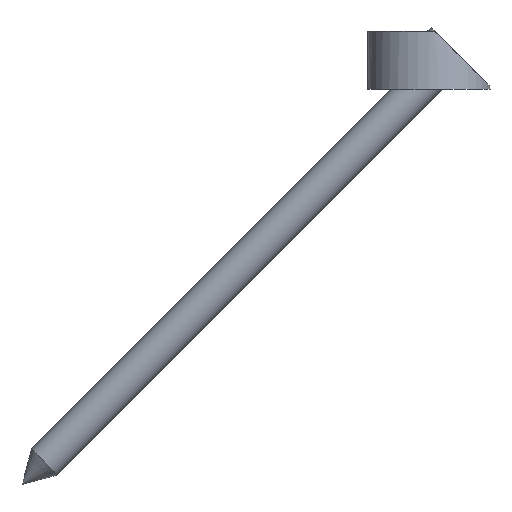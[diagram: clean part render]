
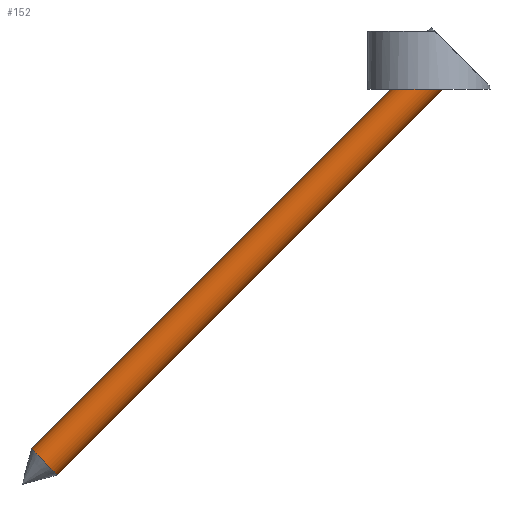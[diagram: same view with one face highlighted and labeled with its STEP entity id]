
A CAD part, left-side view. The second image highlights one B-rep face of the part: STEP entity #152.
In plain terms, the highlighted cylindrical face has radius 3 mm (diameter 6 mm), a full revolution.
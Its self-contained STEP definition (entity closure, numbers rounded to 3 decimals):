
#36=CYLINDRICAL_SURFACE('',#198,3.);
#44=CIRCLE('',#197,3.);
#45=CIRCLE('',#199,3.);
#68=ORIENTED_EDGE('',*,*,#85,.F.);
#69=ORIENTED_EDGE('',*,*,#84,.T.);
#84=EDGE_CURVE('',#95,#95,#44,.T.);
#85=EDGE_CURVE('',#97,#97,#45,.T.);
#95=VERTEX_POINT('',#288);
#97=VERTEX_POINT('',#292);
#115=EDGE_LOOP('',(#68));
#116=EDGE_LOOP('',(#69));
#134=FACE_BOUND('',#115,.T.);
#135=FACE_BOUND('',#116,.T.);
#152=ADVANCED_FACE('',(#134,#135),#36,.T.);
#197=AXIS2_PLACEMENT_3D('',#287,#238,#239);
#198=AXIS2_PLACEMENT_3D('',#290,#240,#241);
#199=AXIS2_PLACEMENT_3D('',#291,#242,#243);
#238=DIRECTION('',(0.,0.,1.));
#239=DIRECTION('',(0.,-1.,0.));
#240=DIRECTION('',(0.,0.,1.));
#241=DIRECTION('',(0.,-1.,0.));
#242=DIRECTION('',(0.,0.,1.));
#243=DIRECTION('',(0.,-1.,0.));
#287=CARTESIAN_POINT('',(0.,0.,-94.804));
#288=CARTESIAN_POINT('',(0.,-3.,-94.804));
#290=CARTESIAN_POINT('',(0.,0.,0.));
#291=CARTESIAN_POINT('',(0.,0.,-3.5));
#292=CARTESIAN_POINT('',(0.,-3.,-3.5));
